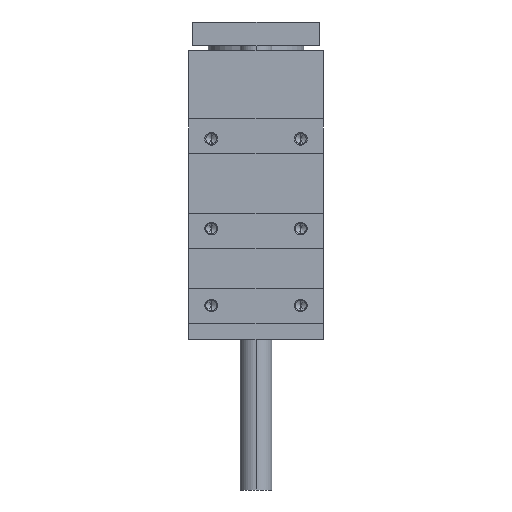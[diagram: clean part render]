
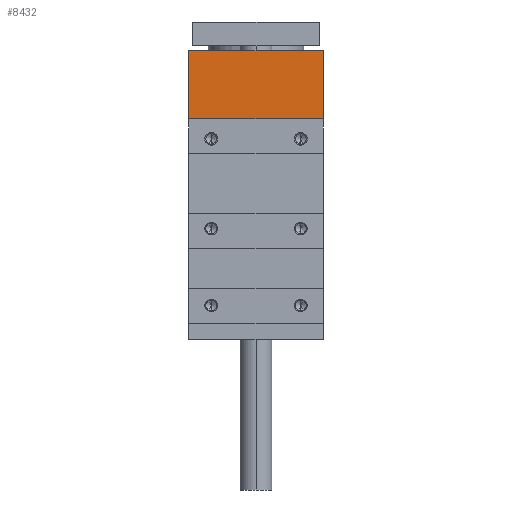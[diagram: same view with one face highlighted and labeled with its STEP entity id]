
A CAD part, left-side view. The second image highlights one B-rep face of the part: STEP entity #8432.
In plain terms, the highlighted planar face has unit normal (-1, 0, 0).
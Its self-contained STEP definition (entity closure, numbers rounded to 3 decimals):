
#89 = CARTESIAN_POINT ( 'NONE',  ( -75.7, -42.5, 0. ) ) ;
#141 = DIRECTION ( 'NONE',  ( 0., 0., -1. ) ) ;
#480 = CARTESIAN_POINT ( 'NONE',  ( -75.7, 42.5, 71. ) ) ;
#565 = VERTEX_POINT ( 'NONE', #6161 ) ;
#1475 = VECTOR ( 'NONE', #141, 1000. ) ;
#2159 = CARTESIAN_POINT ( 'NONE',  ( -75.7, -42.5, 71. ) ) ;
#2381 = DIRECTION ( 'NONE',  ( 0., 1., 0. ) ) ;
#2568 = VECTOR ( 'NONE', #3943, 1000. ) ;
#3677 = DIRECTION ( 'NONE',  ( 0., 0., -1. ) ) ;
#3716 = CARTESIAN_POINT ( 'NONE',  ( -75.7, 85., 28. ) ) ;
#3943 = DIRECTION ( 'NONE',  ( 0., -1., 0. ) ) ;
#4266 = EDGE_CURVE ( 'NONE', #7518, #4902, #8654, .T. ) ;
#4366 = ORIENTED_EDGE ( 'NONE', *, *, #8107, .F. ) ;
#4439 = AXIS2_PLACEMENT_3D ( 'NONE', #9620, #9722, #2381 ) ;
#4776 = CARTESIAN_POINT ( 'NONE',  ( -75.7, 42.5, 28. ) ) ;
#4815 = EDGE_CURVE ( 'NONE', #4902, #565, #10215, .T. ) ;
#4902 = VERTEX_POINT ( 'NONE', #4776 ) ;
#5487 = LINE ( 'NONE', #5536, #2568 ) ;
#5536 = CARTESIAN_POINT ( 'NONE',  ( -75.7, 85., 71. ) ) ;
#6161 = CARTESIAN_POINT ( 'NONE',  ( -75.7, -42.5, 28. ) ) ;
#6172 = CARTESIAN_POINT ( 'NONE',  ( -75.7, 42.5, 0. ) ) ;
#6914 = VECTOR ( 'NONE', #10166, 1000. ) ;
#7094 = PLANE ( 'NONE',  #4439 ) ;
#7301 = FACE_OUTER_BOUND ( 'NONE', #8274, .T. ) ;
#7340 = ORIENTED_EDGE ( 'NONE', *, *, #4815, .T. ) ;
#7374 = LINE ( 'NONE', #89, #1475 ) ;
#7518 = VERTEX_POINT ( 'NONE', #480 ) ;
#8107 = EDGE_CURVE ( 'NONE', #7518, #10202, #5487, .T. ) ;
#8204 = ORIENTED_EDGE ( 'NONE', *, *, #4266, .T. ) ;
#8274 = EDGE_LOOP ( 'NONE', ( #8204, #7340, #9015, #4366 ) ) ;
#8432 = ADVANCED_FACE ( 'NONE', ( #7301 ), #7094, .F. ) ;
#8654 = LINE ( 'NONE', #6172, #10144 ) ;
#9015 = ORIENTED_EDGE ( 'NONE', *, *, #10452, .F. ) ;
#9620 = CARTESIAN_POINT ( 'NONE',  ( -75.7, 85., 28. ) ) ;
#9722 = DIRECTION ( 'NONE',  ( 1., 0., 0. ) ) ;
#10144 = VECTOR ( 'NONE', #3677, 1000. ) ;
#10166 = DIRECTION ( 'NONE',  ( 0., -1., 0. ) ) ;
#10202 = VERTEX_POINT ( 'NONE', #2159 ) ;
#10215 = LINE ( 'NONE', #3716, #6914 ) ;
#10452 = EDGE_CURVE ( 'NONE', #10202, #565, #7374, .T. ) ;
